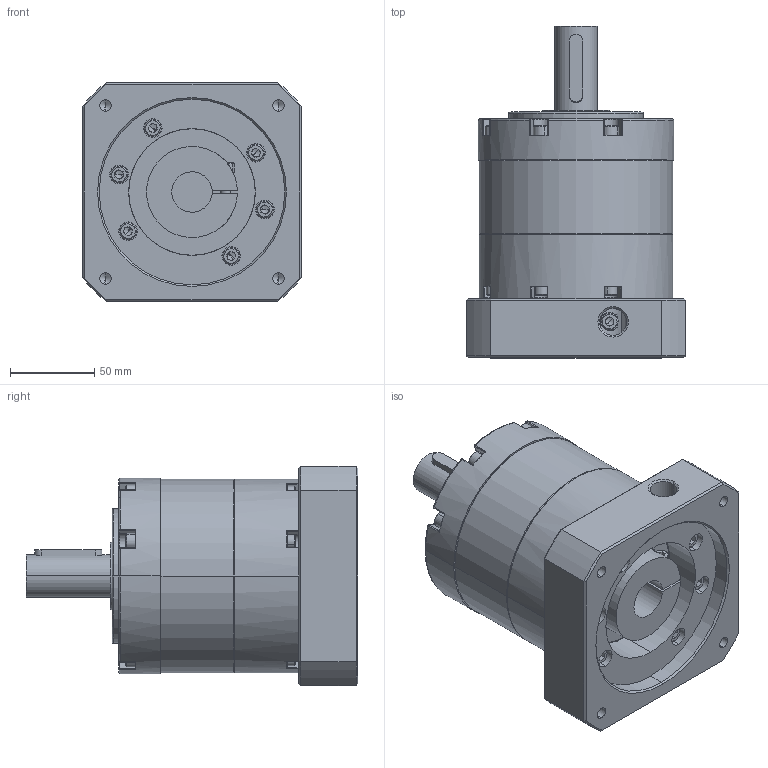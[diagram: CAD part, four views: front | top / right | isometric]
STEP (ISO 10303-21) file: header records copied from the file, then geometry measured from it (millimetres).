
FILE_DESCRIPTION (( 'STEP AP203' ), '1' );
FILE_NAME ('1G4XS.110130.142.STEP', '2018-09-20T09:11:35', ( '' ), ( '' ), 'SwSTEP 2.0', 'SolidWorks 2010', '' );
FILE_SCHEMA (( 'CONFIG_CONTROL_DESIGN' ));
Length unit declared in the file: millimetre
Products named in the file (8): 沉頭內六角M5xP0.8x40L_CB5-5; 1G4XS.110130.142; PBE115-B(模型)_4.成品; 沉頭內六角M6x30._沉頭螺絲M6x25L; PNS120-FP(模型)_4.成品; 雙圓鍵 8x7x32_40; PGS115-BP(模型)_4.成品; 234BC45310_成品
Assembly tree (24 placements, depth 2):
  1G4XS.110130.142
    PNS120-FP(模型)_4.成品
    沉頭內六角M5xP0.8x40L_CB5-5  x6
    PGS115-BP(模型)_4.成品
    雙圓鍵 8x7x32_40
    沉頭內六角M6x30._沉頭螺絲M6x25L  x13
    PBE115-B(模型)_4.成品
    234BC45310_成品
Bounding box: 130 x 196.8 x 130 mm (x, y, z)
Volume: 1561418.7 mm3; surface area: 205475 mm2
Topology: 24 solids, 24 shells, 890 faces, 2056 edges, 1217 vertices
Faces by surface type: plane 370, cylinder 297, cone 178, torus 33, bspline 12
Entity records: 16629 total; most frequent: CARTESIAN_POINT 4206, DIRECTION 2522, ORIENTED_EDGE 2188, EDGE_CURVE 1094, AXIS2_PLACEMENT_3D 1026, VERTEX_POINT 680, EDGE_LOOP 558, CIRCLE 546
